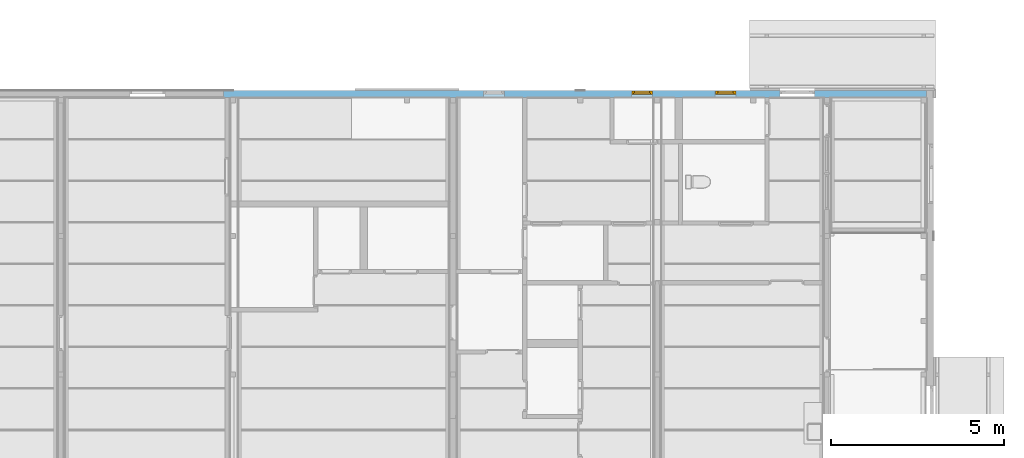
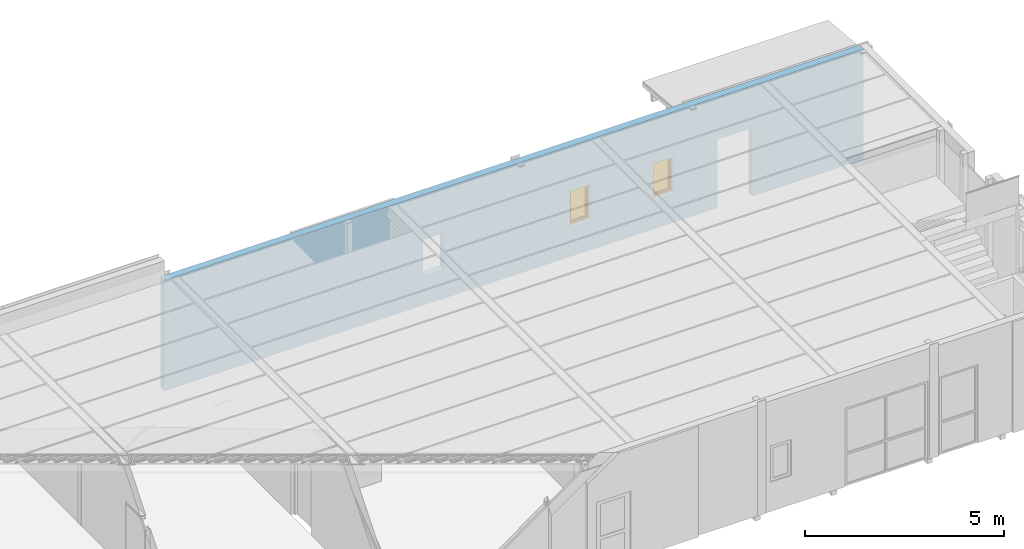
# One storey, part 33 of 45: 2 windows, 4 openings, plus 1 element that does not belong to this part.
"""IFC2X3 building model written with IfcOpenShell, lengths in millimetres."""

from ifc_helpers import new_model, entity, si_unit, converted_unit, frame, frame_2d, origin, origin_with_axes, place, context, subcontext, project, spatial, rectangle, extrude, faceted_brep, material, layer, layer_set, layer_usage, type_object, element, fill, save


model = new_model("IFC2X3")

# Units and contexts
model_context = context("Model", 3, precision=1e-05, world=origin())
plan_context = context("Plan", 3, precision=1e-05, world=origin())
body_context = subcontext(model_context, "Body", "Model", "MODEL_VIEW")
ifc_project = project(units=[si_unit("LENGTHUNIT", "METRE", prefix="MILLI"), converted_unit("PLANEANGLEUNIT", "DEGREE", entity("IfcPlaneAngleMeasure", 0.0174532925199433), si_unit("PLANEANGLEUNIT", "RADIAN"), dimensions=[0, 0, 0, 0, 0, 0, 0]), si_unit("AREAUNIT", "SQUARE_METRE"), si_unit("VOLUMEUNIT", "CUBIC_METRE")], contexts=[model_context, plan_context])

# Building, storey
building_placement = place(None, origin())
building = spatial("IfcBuilding", under=ifc_project, at=building_placement, Name="HEKF Administrasjonbygg", CompositionType="ELEMENT")
storey_placement = place(building_placement, frame((0.0, 0.0, 6500.0), z_axis=(0.0, 0.0, 1.0), x_axis=(1.0, 0.0, 0.0)))
storey = spatial("IfcBuildingStorey", under=building, at=storey_placement, Name="Plan 1", CompositionType="ELEMENT", Elevation=6500.0)

# Wall, openings, windows
ifc_material_1 = material(Name="Paroc 200")
ifc_layer = layer(ifc_material_1, 200.0)
ifc_layer_set = layer_set([ifc_layer])
ifc_layer_usage = layer_usage(ifc_layer_set, "AXIS2", "POSITIVE", 0.0)
wall_placement = place(storey_placement, frame((9700.0, 0.0, 0.0), z_axis=(0.0, 0.0, 1.0), x_axis=(1.0, 0.0, 0.0)))
wall = element("IfcWallStandardCase", 1, at=wall_placement, inside=storey, material=ifc_layer_usage, context=body_context, shape_type="SweptSolid", body=[
    extrude(rectangle(XDim=20300.0, YDim=200.0, at=frame_2d((10150.0, 100.0), x_axis=(1.0, 0.0))), origin_with_axes(), (0.0, 0.0, 1.0), 3400.0),
])
opening_1_placement = place(wall_placement, frame((14196.02524509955, 0.0, 900.0), z_axis=(0.0, 1.0, 0.0), x_axis=(0.0, 0.0, 1.0)))
opening_1 = element("IfcOpeningElement", 2, at=opening_1_placement, cuts=wall, Name="Window opening", ObjectType="Opening", context=body_context, shape_type="SweptSolid", body=[
    extrude(rectangle(XDim=1110.0, YDim=610.0, at=frame_2d((555.0, 305.0), x_axis=(1.0, 0.0))), origin_with_axes(), (0.0, 0.0, 1.0), 200.0),
])
opening_2_placement = place(wall_placement, frame((11783.83890219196, 0.0, 900.0), z_axis=(0.0, 1.0, 0.0), x_axis=(0.0, 0.0, 1.0)))
opening_2 = element("IfcOpeningElement", 3, at=opening_2_placement, cuts=wall, Name="Window opening", ObjectType="Opening", context=body_context, shape_type="SweptSolid", body=[
    extrude(rectangle(XDim=1110.0, YDim=610.0, at=frame_2d((555.0, 305.0), x_axis=(1.0, 0.0))), origin_with_axes(), (0.0, 0.0, 1.0), 200.0),
])
opening_3_placement = place(wall_placement, frame((7500.0, 0.0, 900.0), z_axis=(0.0, 1.0, 0.0), x_axis=(0.0, 0.0, 1.0)))
element("IfcOpeningElement", 4, at=opening_3_placement, cuts=wall, Name="V008", ObjectType="Opening", context=body_context, shape_type="SweptSolid", body=[
    extrude(rectangle(XDim=1110.0, YDim=610.0, at=frame_2d((555.0, 305.0), x_axis=(1.0, 0.0))), origin_with_axes(), (0.0, 0.0, 1.0), 200.0),
])
opening_4_placement = place(wall_placement, frame((16063.51368374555, 0.0, 0.0), z_axis=(0.0, 1.0, 0.0), x_axis=(0.0, 0.0, 1.0)))
element("IfcOpeningElement", 5, at=opening_4_placement, cuts=wall, Name="D004", ObjectType="Opening", context=body_context, shape_type="SweptSolid", body=[
    extrude(rectangle(XDim=2100.0, YDim=1010.0, at=frame_2d((1050.0, 505.0), x_axis=(1.0, 0.0))), origin_with_axes(), (0.0, 0.0, 1.0), 200.0),
])
ifc_material_2 = material()
window_style_1 = type_object("IfcWindowStyle", Name="V105", ConstructionType="NOTDEFINED", OperationType="USERDEFINED", ParameterTakesPrecedence=False, Sizeable=False)
window_1_placement = place(opening_1_placement, frame((0.0, 0.0, 0.0), z_axis=(1.0, 0.0, 0.0), x_axis=(0.0, 1.0, 0.0)))
window_1 = element("IfcWindow", 6, at=window_1_placement, inside=storey, type_object=window_style_1, material=ifc_material_2, Name="V105", OverallHeight=1110.0, OverallWidth=610.0, context=body_context, shape_type="Brep", body=[
    faceted_brep([(10.00000000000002, 186.0000000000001, 1100.0), (10.00000000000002, 186.0000000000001, 9.999999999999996), (60.00000000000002, 186.0, 9.999999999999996), (60.00000000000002, 186.0000000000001, 1100.0), (10.0, 94.00000000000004, 10.0), (10.0, 94.00000000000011, 1100.0), (60.0, 94.0000000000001, 1100.0), (60.0, 94.00000000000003, 10.0), (10.00000000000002, 186.0000000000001, 9.999999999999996), (10.00000000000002, 186.0000000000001, 1100.0), (10.0, 94.00000000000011, 1100.0), (10.0, 94.00000000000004, 10.0), (60.00000000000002, 186.0, 9.999999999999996), (10.00000000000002, 186.0000000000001, 9.999999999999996), (10.0, 94.00000000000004, 10.0), (60.0, 94.00000000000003, 10.0), (60.00000000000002, 186.0000000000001, 1100.0), (60.00000000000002, 186.0, 9.999999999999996), (60.0, 94.00000000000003, 10.0), (60.0, 94.0000000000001, 1100.0), (10.00000000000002, 186.0000000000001, 1100.0), (60.00000000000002, 186.0000000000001, 1100.0), (60.0, 94.0000000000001, 1100.0), (10.0, 94.00000000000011, 1100.0)], [[[0, 1, 2, 3]], [[4, 5, 6, 7]], [[8, 9, 10, 11]], [[12, 13, 14, 15]], [[16, 17, 18, 19]], [[20, 21, 22, 23]]], orient=[[False], [False], [False], [False], [False], [False]]),
    faceted_brep([(549.9999999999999, 186.0, 1100.0), (549.9999999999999, 185.9999999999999, 9.999999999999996), (599.9999999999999, 185.9999999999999, 9.999999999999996), (599.9999999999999, 186.0, 1100.0), (549.9999999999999, 93.99999999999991, 10.0), (549.9999999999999, 93.99999999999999, 1100.0), (599.9999999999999, 93.99999999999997, 1100.0), (599.9999999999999, 93.9999999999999, 10.0), (549.9999999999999, 185.9999999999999, 9.999999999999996), (549.9999999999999, 186.0, 1100.0), (549.9999999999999, 93.99999999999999, 1100.0), (549.9999999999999, 93.99999999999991, 10.0), (599.9999999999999, 185.9999999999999, 9.999999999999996), (549.9999999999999, 185.9999999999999, 9.999999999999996), (549.9999999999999, 93.99999999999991, 10.0), (599.9999999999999, 93.9999999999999, 10.0), (599.9999999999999, 186.0, 1100.0), (599.9999999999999, 185.9999999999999, 9.999999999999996), (599.9999999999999, 93.9999999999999, 10.0), (599.9999999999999, 93.99999999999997, 1100.0), (549.9999999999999, 186.0, 1100.0), (599.9999999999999, 186.0, 1100.0), (599.9999999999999, 93.99999999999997, 1100.0), (549.9999999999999, 93.99999999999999, 1100.0)], [[[0, 1, 2, 3]], [[4, 5, 6, 7]], [[8, 9, 10, 11]], [[12, 13, 14, 15]], [[16, 17, 18, 19]], [[20, 21, 22, 23]]], orient=[[False], [False], [False], [False], [False], [False]]),
    faceted_brep([(60.00000000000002, 186.0, 60.0), (60.00000000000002, 186.0, 9.999999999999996), (550.0, 185.9999999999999, 9.999999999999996), (550.0, 185.9999999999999, 60.0), (60.0, 94.00000000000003, 10.0), (60.0, 94.00000000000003, 60.0), (550.0, 93.99999999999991, 60.0), (550.0, 93.99999999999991, 10.0), (60.00000000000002, 186.0, 9.999999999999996), (60.00000000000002, 186.0, 60.0), (60.0, 94.00000000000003, 60.0), (60.0, 94.00000000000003, 10.0), (550.0, 185.9999999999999, 9.999999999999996), (60.00000000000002, 186.0, 9.999999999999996), (60.0, 94.00000000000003, 10.0), (550.0, 93.99999999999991, 10.0), (550.0, 185.9999999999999, 60.0), (550.0, 185.9999999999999, 9.999999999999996), (550.0, 93.99999999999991, 10.0), (550.0, 93.99999999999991, 60.0), (60.00000000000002, 186.0, 60.0), (550.0, 185.9999999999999, 60.0), (550.0, 93.99999999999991, 60.0), (60.0, 94.00000000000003, 60.0)], [[[0, 1, 2, 3]], [[4, 5, 6, 7]], [[8, 9, 10, 11]], [[12, 13, 14, 15]], [[16, 17, 18, 19]], [[20, 21, 22, 23]]], orient=[[False], [False], [False], [False], [False], [False]]),
    faceted_brep([(60.00000000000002, 186.0000000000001, 1100.0), (60.00000000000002, 186.0000000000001, 1050.0), (550.0, 186.0, 1050.0), (550.0, 186.0, 1100.0), (60.0, 94.00000000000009, 1050.0), (60.0, 94.00000000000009, 1100.0), (550.0, 93.99999999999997, 1100.0), (550.0, 93.99999999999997, 1050.0), (60.00000000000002, 186.0000000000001, 1050.0), (60.00000000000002, 186.0000000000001, 1100.0), (60.0, 94.00000000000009, 1100.0), (60.0, 94.00000000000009, 1050.0), (550.0, 186.0, 1050.0), (60.00000000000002, 186.0000000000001, 1050.0), (60.0, 94.00000000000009, 1050.0), (550.0, 93.99999999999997, 1050.0), (550.0, 186.0, 1100.0), (550.0, 186.0, 1050.0), (550.0, 93.99999999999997, 1050.0), (550.0, 93.99999999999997, 1100.0), (60.00000000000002, 186.0000000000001, 1100.0), (550.0, 186.0, 1100.0), (550.0, 93.99999999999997, 1100.0), (60.0, 94.00000000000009, 1100.0)], [[[0, 1, 2, 3]], [[4, 5, 6, 7]], [[8, 9, 10, 11]], [[12, 13, 14, 15]], [[16, 17, 18, 19]], [[20, 21, 22, 23]]], orient=[[False], [False], [False], [False], [False], [False]]),
    faceted_brep([(40.00000000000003, 186.0000000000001, 1070.0), (40.00000000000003, 186.0000000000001, 40.00000000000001), (90.00000000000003, 186.0, 40.00000000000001), (90.00000000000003, 186.0000000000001, 1070.0), (40.00000000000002, 136.0000000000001, 40.00000000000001), (40.00000000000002, 136.0000000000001, 1070.0), (90.00000000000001, 136.0000000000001, 1070.0), (90.00000000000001, 136.0, 40.00000000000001), (40.00000000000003, 186.0000000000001, 40.00000000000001), (40.00000000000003, 186.0000000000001, 1070.0), (40.00000000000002, 136.0000000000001, 1070.0), (40.00000000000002, 136.0000000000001, 40.00000000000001), (90.00000000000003, 186.0, 40.00000000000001), (40.00000000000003, 186.0000000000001, 40.00000000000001), (40.00000000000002, 136.0000000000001, 40.00000000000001), (90.00000000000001, 136.0, 40.00000000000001), (90.00000000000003, 186.0000000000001, 1070.0), (90.00000000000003, 186.0, 40.00000000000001), (90.00000000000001, 136.0, 40.00000000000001), (90.00000000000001, 136.0000000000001, 1070.0), (40.00000000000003, 186.0000000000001, 1070.0), (90.00000000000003, 186.0000000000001, 1070.0), (90.00000000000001, 136.0000000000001, 1070.0), (40.00000000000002, 136.0000000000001, 1070.0)], [[[0, 1, 2, 3]], [[4, 5, 6, 7]], [[8, 9, 10, 11]], [[12, 13, 14, 15]], [[16, 17, 18, 19]], [[20, 21, 22, 23]]], orient=[[False], [False], [False], [False], [False], [False]]),
    faceted_brep([(520.0, 186.0, 1070.0), (520.0, 185.9999999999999, 40.00000000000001), (570.0, 185.9999999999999, 40.00000000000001), (570.0, 186.0, 1070.0), (520.0, 135.9999999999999, 40.00000000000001), (520.0, 136.0, 1070.0), (570.0, 136.0, 1070.0), (570.0, 135.9999999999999, 40.00000000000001), (520.0, 185.9999999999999, 40.00000000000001), (520.0, 186.0, 1070.0), (520.0, 136.0, 1070.0), (520.0, 135.9999999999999, 40.00000000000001), (570.0, 185.9999999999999, 40.00000000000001), (520.0, 185.9999999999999, 40.00000000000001), (520.0, 135.9999999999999, 40.00000000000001), (570.0, 135.9999999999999, 40.00000000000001), (570.0, 186.0, 1070.0), (570.0, 185.9999999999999, 40.00000000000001), (570.0, 135.9999999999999, 40.00000000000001), (570.0, 136.0, 1070.0), (520.0, 186.0, 1070.0), (570.0, 186.0, 1070.0), (570.0, 136.0, 1070.0), (520.0, 136.0, 1070.0)], [[[0, 1, 2, 3]], [[4, 5, 6, 7]], [[8, 9, 10, 11]], [[12, 13, 14, 15]], [[16, 17, 18, 19]], [[20, 21, 22, 23]]], orient=[[False], [False], [False], [False], [False], [False]]),
    faceted_brep([(90.00000000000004, 186.0, 90.0), (90.00000000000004, 186.0, 40.00000000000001), (520.0, 185.9999999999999, 40.00000000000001), (520.0, 185.9999999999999, 90.0), (90.00000000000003, 136.0, 40.00000000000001), (90.00000000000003, 136.0, 90.0), (520.0, 135.9999999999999, 90.0), (520.0, 135.9999999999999, 40.00000000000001), (90.00000000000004, 186.0, 40.00000000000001), (90.00000000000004, 186.0, 90.0), (90.00000000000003, 136.0, 90.0), (90.00000000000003, 136.0, 40.00000000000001), (520.0, 185.9999999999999, 40.00000000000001), (90.00000000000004, 186.0, 40.00000000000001), (90.00000000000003, 136.0, 40.00000000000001), (520.0, 135.9999999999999, 40.00000000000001), (520.0, 185.9999999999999, 90.0), (520.0, 185.9999999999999, 40.00000000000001), (520.0, 135.9999999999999, 40.00000000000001), (520.0, 135.9999999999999, 90.0), (90.00000000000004, 186.0, 90.0), (520.0, 185.9999999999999, 90.0), (520.0, 135.9999999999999, 90.0), (90.00000000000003, 136.0, 90.0)], [[[0, 1, 2, 3]], [[4, 5, 6, 7]], [[8, 9, 10, 11]], [[12, 13, 14, 15]], [[16, 17, 18, 19]], [[20, 21, 22, 23]]], orient=[[False], [False], [False], [False], [False], [False]]),
    faceted_brep([(90.00000000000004, 186.0000000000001, 1070.0), (90.00000000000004, 186.0000000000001, 1020.0), (520.0, 186.0, 1020.0), (520.0, 186.0, 1070.0), (90.00000000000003, 136.0000000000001, 1020.0), (90.00000000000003, 136.0000000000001, 1070.0), (520.0, 136.0, 1070.0), (520.0, 136.0, 1020.0), (90.00000000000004, 186.0000000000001, 1020.0), (90.00000000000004, 186.0000000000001, 1070.0), (90.00000000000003, 136.0000000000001, 1070.0), (90.00000000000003, 136.0000000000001, 1020.0), (520.0, 186.0, 1020.0), (90.00000000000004, 186.0000000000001, 1020.0), (90.00000000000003, 136.0000000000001, 1020.0), (520.0, 136.0, 1020.0), (520.0, 186.0, 1070.0), (520.0, 186.0, 1020.0), (520.0, 136.0, 1020.0), (520.0, 136.0, 1070.0), (90.00000000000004, 186.0000000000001, 1070.0), (520.0, 186.0, 1070.0), (520.0, 136.0, 1070.0), (90.00000000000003, 136.0000000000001, 1070.0)], [[[0, 1, 2, 3]], [[4, 5, 6, 7]], [[8, 9, 10, 11]], [[12, 13, 14, 15]], [[16, 17, 18, 19]], [[20, 21, 22, 23]]], orient=[[False], [False], [False], [False], [False], [False]]),
    faceted_brep([(90.00000000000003, 161.0, 90.00000000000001), (520.0, 160.9999999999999, 90.00000000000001), (520.0, 161.0, 1020.0), (90.00000000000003, 161.0000000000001, 1020.0), (90.00000000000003, 160.0, 90.00000000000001), (90.00000000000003, 160.0000000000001, 1020.0), (520.0, 160.0, 1020.0), (520.0, 159.9999999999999, 90.00000000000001), (90.00000000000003, 161.0, 90.00000000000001), (90.00000000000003, 160.0, 90.00000000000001), (520.0, 159.9999999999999, 90.00000000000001), (520.0, 160.9999999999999, 90.00000000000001), (520.0, 160.9999999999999, 90.00000000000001), (520.0, 159.9999999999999, 90.00000000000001), (520.0, 160.0, 1020.0), (520.0, 161.0, 1020.0), (520.0, 161.0, 1020.0), (520.0, 160.0, 1020.0), (90.00000000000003, 160.0000000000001, 1020.0), (90.00000000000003, 161.0000000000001, 1020.0), (90.00000000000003, 161.0000000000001, 1020.0), (90.00000000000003, 160.0000000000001, 1020.0), (90.00000000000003, 160.0, 90.00000000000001), (90.00000000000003, 161.0, 90.00000000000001)], [[[0, 1, 2, 3]], [[4, 5, 6, 7]], [[8, 9, 10, 11]], [[12, 13, 14, 15]], [[16, 17, 18, 19]], [[20, 21, 22, 23]]], orient=[[False], [False], [False], [False], [False], [False]]),
])
fill(opening_1, window_1)
ifc_material_3 = material()
window_style_2 = type_object("IfcWindowStyle", Name="V106", ConstructionType="NOTDEFINED", OperationType="USERDEFINED", ParameterTakesPrecedence=False, Sizeable=False)
window_2_placement = place(opening_2_placement, frame((0.0, 0.0, 0.0), z_axis=(1.0, 0.0, 0.0), x_axis=(0.0, 1.0, 0.0)))
window_2 = element("IfcWindow", 7, at=window_2_placement, inside=storey, type_object=window_style_2, material=ifc_material_3, Name="V106", OverallHeight=1110.0, OverallWidth=610.0, context=body_context, shape_type="Brep", body=[
    faceted_brep([(10.00000000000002, 186.0000000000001, 1100.0), (10.00000000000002, 186.0, 9.999999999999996), (60.00000000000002, 186.0, 9.999999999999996), (60.00000000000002, 186.0000000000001, 1100.0), (10.0, 94.00000000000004, 10.0), (10.0, 94.00000000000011, 1100.0), (60.0, 94.0000000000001, 1100.0), (60.0, 94.00000000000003, 10.0), (10.00000000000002, 186.0, 9.999999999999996), (10.00000000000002, 186.0000000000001, 1100.0), (10.0, 94.00000000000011, 1100.0), (10.0, 94.00000000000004, 10.0), (60.00000000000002, 186.0, 9.999999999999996), (10.00000000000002, 186.0, 9.999999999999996), (10.0, 94.00000000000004, 10.0), (60.0, 94.00000000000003, 10.0), (60.00000000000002, 186.0000000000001, 1100.0), (60.00000000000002, 186.0, 9.999999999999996), (60.0, 94.00000000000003, 10.0), (60.0, 94.0000000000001, 1100.0), (10.00000000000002, 186.0000000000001, 1100.0), (60.00000000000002, 186.0000000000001, 1100.0), (60.0, 94.0000000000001, 1100.0), (10.0, 94.00000000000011, 1100.0)], [[[0, 1, 2, 3]], [[4, 5, 6, 7]], [[8, 9, 10, 11]], [[12, 13, 14, 15]], [[16, 17, 18, 19]], [[20, 21, 22, 23]]], orient=[[False], [False], [False], [False], [False], [False]]),
    faceted_brep([(549.9999999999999, 185.9999999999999, 1100.0), (549.9999999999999, 185.9999999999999, 9.999999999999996), (599.9999999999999, 185.9999999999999, 9.999999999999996), (599.9999999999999, 185.9999999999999, 1100.0), (549.9999999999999, 93.9999999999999, 10.0), (549.9999999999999, 93.99999999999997, 1100.0), (599.9999999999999, 93.99999999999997, 1100.0), (599.9999999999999, 93.9999999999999, 10.0), (549.9999999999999, 185.9999999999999, 9.999999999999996), (549.9999999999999, 185.9999999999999, 1100.0), (549.9999999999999, 93.99999999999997, 1100.0), (549.9999999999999, 93.9999999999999, 10.0), (599.9999999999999, 185.9999999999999, 9.999999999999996), (549.9999999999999, 185.9999999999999, 9.999999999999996), (549.9999999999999, 93.9999999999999, 10.0), (599.9999999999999, 93.9999999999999, 10.0), (599.9999999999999, 185.9999999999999, 1100.0), (599.9999999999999, 185.9999999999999, 9.999999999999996), (599.9999999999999, 93.9999999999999, 10.0), (599.9999999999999, 93.99999999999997, 1100.0), (549.9999999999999, 185.9999999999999, 1100.0), (599.9999999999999, 185.9999999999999, 1100.0), (599.9999999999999, 93.99999999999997, 1100.0), (549.9999999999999, 93.99999999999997, 1100.0)], [[[0, 1, 2, 3]], [[4, 5, 6, 7]], [[8, 9, 10, 11]], [[12, 13, 14, 15]], [[16, 17, 18, 19]], [[20, 21, 22, 23]]], orient=[[False], [False], [False], [False], [False], [False]]),
    faceted_brep([(60.00000000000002, 186.0, 60.0), (60.00000000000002, 186.0, 9.999999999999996), (550.0, 185.9999999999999, 9.999999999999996), (550.0, 185.9999999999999, 60.0), (60.0, 94.00000000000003, 10.0), (60.0, 94.00000000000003, 60.0), (550.0, 93.9999999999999, 60.0), (550.0, 93.9999999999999, 10.0), (60.00000000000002, 186.0, 9.999999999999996), (60.00000000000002, 186.0, 60.0), (60.0, 94.00000000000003, 60.0), (60.0, 94.00000000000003, 10.0), (550.0, 185.9999999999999, 9.999999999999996), (60.00000000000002, 186.0, 9.999999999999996), (60.0, 94.00000000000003, 10.0), (550.0, 93.9999999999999, 10.0), (550.0, 185.9999999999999, 60.0), (550.0, 185.9999999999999, 9.999999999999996), (550.0, 93.9999999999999, 10.0), (550.0, 93.9999999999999, 60.0), (60.00000000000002, 186.0, 60.0), (550.0, 185.9999999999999, 60.0), (550.0, 93.9999999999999, 60.0), (60.0, 94.00000000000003, 60.0)], [[[0, 1, 2, 3]], [[4, 5, 6, 7]], [[8, 9, 10, 11]], [[12, 13, 14, 15]], [[16, 17, 18, 19]], [[20, 21, 22, 23]]], orient=[[False], [False], [False], [False], [False], [False]]),
    faceted_brep([(60.00000000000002, 186.0000000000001, 1100.0), (60.00000000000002, 186.0000000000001, 1050.0), (550.0, 185.9999999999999, 1050.0), (550.0, 185.9999999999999, 1100.0), (60.0, 94.00000000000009, 1050.0), (60.0, 94.00000000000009, 1100.0), (550.0, 93.99999999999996, 1100.0), (550.0, 93.99999999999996, 1050.0), (60.00000000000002, 186.0000000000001, 1050.0), (60.00000000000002, 186.0000000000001, 1100.0), (60.0, 94.00000000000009, 1100.0), (60.0, 94.00000000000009, 1050.0), (550.0, 185.9999999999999, 1050.0), (60.00000000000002, 186.0000000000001, 1050.0), (60.0, 94.00000000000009, 1050.0), (550.0, 93.99999999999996, 1050.0), (550.0, 185.9999999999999, 1100.0), (550.0, 185.9999999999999, 1050.0), (550.0, 93.99999999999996, 1050.0), (550.0, 93.99999999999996, 1100.0), (60.00000000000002, 186.0000000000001, 1100.0), (550.0, 185.9999999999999, 1100.0), (550.0, 93.99999999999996, 1100.0), (60.0, 94.00000000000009, 1100.0)], [[[0, 1, 2, 3]], [[4, 5, 6, 7]], [[8, 9, 10, 11]], [[12, 13, 14, 15]], [[16, 17, 18, 19]], [[20, 21, 22, 23]]], orient=[[False], [False], [False], [False], [False], [False]]),
    faceted_brep([(40.00000000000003, 186.0000000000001, 1070.0), (40.00000000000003, 186.0, 40.00000000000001), (90.00000000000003, 186.0, 40.00000000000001), (90.00000000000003, 186.0000000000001, 1070.0), (40.00000000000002, 136.0, 40.00000000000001), (40.00000000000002, 136.0000000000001, 1070.0), (90.00000000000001, 136.0000000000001, 1070.0), (90.00000000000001, 136.0, 40.00000000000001), (40.00000000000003, 186.0, 40.00000000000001), (40.00000000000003, 186.0000000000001, 1070.0), (40.00000000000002, 136.0000000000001, 1070.0), (40.00000000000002, 136.0, 40.00000000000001), (90.00000000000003, 186.0, 40.00000000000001), (40.00000000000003, 186.0, 40.00000000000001), (40.00000000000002, 136.0, 40.00000000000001), (90.00000000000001, 136.0, 40.00000000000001), (90.00000000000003, 186.0000000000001, 1070.0), (90.00000000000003, 186.0, 40.00000000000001), (90.00000000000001, 136.0, 40.00000000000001), (90.00000000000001, 136.0000000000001, 1070.0), (40.00000000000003, 186.0000000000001, 1070.0), (90.00000000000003, 186.0000000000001, 1070.0), (90.00000000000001, 136.0000000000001, 1070.0), (40.00000000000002, 136.0000000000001, 1070.0)], [[[0, 1, 2, 3]], [[4, 5, 6, 7]], [[8, 9, 10, 11]], [[12, 13, 14, 15]], [[16, 17, 18, 19]], [[20, 21, 22, 23]]], orient=[[False], [False], [False], [False], [False], [False]]),
    faceted_brep([(520.0, 185.9999999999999, 1070.0), (520.0, 185.9999999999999, 40.00000000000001), (570.0, 185.9999999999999, 40.00000000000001), (570.0, 185.9999999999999, 1070.0), (520.0, 135.9999999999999, 40.00000000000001), (520.0, 136.0, 1070.0), (570.0, 135.9999999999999, 1070.0), (570.0, 135.9999999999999, 40.00000000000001), (520.0, 185.9999999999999, 40.00000000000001), (520.0, 185.9999999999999, 1070.0), (520.0, 136.0, 1070.0), (520.0, 135.9999999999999, 40.00000000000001), (570.0, 185.9999999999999, 40.00000000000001), (520.0, 185.9999999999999, 40.00000000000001), (520.0, 135.9999999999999, 40.00000000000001), (570.0, 135.9999999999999, 40.00000000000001), (570.0, 185.9999999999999, 1070.0), (570.0, 185.9999999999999, 40.00000000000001), (570.0, 135.9999999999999, 40.00000000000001), (570.0, 135.9999999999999, 1070.0), (520.0, 185.9999999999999, 1070.0), (570.0, 185.9999999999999, 1070.0), (570.0, 135.9999999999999, 1070.0), (520.0, 136.0, 1070.0)], [[[0, 1, 2, 3]], [[4, 5, 6, 7]], [[8, 9, 10, 11]], [[12, 13, 14, 15]], [[16, 17, 18, 19]], [[20, 21, 22, 23]]], orient=[[False], [False], [False], [False], [False], [False]]),
    faceted_brep([(90.00000000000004, 186.0, 90.0), (90.00000000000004, 186.0, 40.00000000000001), (520.0, 185.9999999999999, 40.00000000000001), (520.0, 185.9999999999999, 90.0), (90.00000000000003, 136.0, 40.00000000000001), (90.00000000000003, 136.0, 90.0), (520.0, 135.9999999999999, 90.0), (520.0, 135.9999999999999, 40.00000000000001), (90.00000000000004, 186.0, 40.00000000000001), (90.00000000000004, 186.0, 90.0), (90.00000000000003, 136.0, 90.0), (90.00000000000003, 136.0, 40.00000000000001), (520.0, 185.9999999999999, 40.00000000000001), (90.00000000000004, 186.0, 40.00000000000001), (90.00000000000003, 136.0, 40.00000000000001), (520.0, 135.9999999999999, 40.00000000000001), (520.0, 185.9999999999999, 90.0), (520.0, 185.9999999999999, 40.00000000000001), (520.0, 135.9999999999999, 40.00000000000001), (520.0, 135.9999999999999, 90.0), (90.00000000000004, 186.0, 90.0), (520.0, 185.9999999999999, 90.0), (520.0, 135.9999999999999, 90.0), (90.00000000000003, 136.0, 90.0)], [[[0, 1, 2, 3]], [[4, 5, 6, 7]], [[8, 9, 10, 11]], [[12, 13, 14, 15]], [[16, 17, 18, 19]], [[20, 21, 22, 23]]], orient=[[False], [False], [False], [False], [False], [False]]),
    faceted_brep([(90.00000000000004, 186.0000000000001, 1070.0), (90.00000000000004, 186.0000000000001, 1020.0), (520.0, 185.9999999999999, 1020.0), (520.0, 185.9999999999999, 1070.0), (90.00000000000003, 136.0000000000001, 1020.0), (90.00000000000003, 136.0000000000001, 1070.0), (520.0, 136.0, 1070.0), (520.0, 136.0, 1020.0), (90.00000000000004, 186.0000000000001, 1020.0), (90.00000000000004, 186.0000000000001, 1070.0), (90.00000000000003, 136.0000000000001, 1070.0), (90.00000000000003, 136.0000000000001, 1020.0), (520.0, 185.9999999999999, 1020.0), (90.00000000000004, 186.0000000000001, 1020.0), (90.00000000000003, 136.0000000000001, 1020.0), (520.0, 136.0, 1020.0), (520.0, 185.9999999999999, 1070.0), (520.0, 185.9999999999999, 1020.0), (520.0, 136.0, 1020.0), (520.0, 136.0, 1070.0), (90.00000000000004, 186.0000000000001, 1070.0), (520.0, 185.9999999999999, 1070.0), (520.0, 136.0, 1070.0), (90.00000000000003, 136.0000000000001, 1070.0)], [[[0, 1, 2, 3]], [[4, 5, 6, 7]], [[8, 9, 10, 11]], [[12, 13, 14, 15]], [[16, 17, 18, 19]], [[20, 21, 22, 23]]], orient=[[False], [False], [False], [False], [False], [False]]),
    faceted_brep([(90.00000000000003, 161.0, 90.00000000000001), (520.0, 160.9999999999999, 90.00000000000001), (520.0, 160.9999999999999, 1020.0), (90.00000000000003, 161.0000000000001, 1020.0), (90.00000000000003, 160.0, 90.00000000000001), (90.00000000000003, 160.0000000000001, 1020.0), (520.0, 159.9999999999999, 1020.0), (520.0, 159.9999999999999, 90.00000000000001), (90.00000000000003, 161.0, 90.00000000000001), (90.00000000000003, 160.0, 90.00000000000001), (520.0, 159.9999999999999, 90.00000000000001), (520.0, 160.9999999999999, 90.00000000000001), (520.0, 160.9999999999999, 90.00000000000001), (520.0, 159.9999999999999, 90.00000000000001), (520.0, 159.9999999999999, 1020.0), (520.0, 160.9999999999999, 1020.0), (520.0, 160.9999999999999, 1020.0), (520.0, 159.9999999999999, 1020.0), (90.00000000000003, 160.0000000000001, 1020.0), (90.00000000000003, 161.0000000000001, 1020.0), (90.00000000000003, 161.0000000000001, 1020.0), (90.00000000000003, 160.0000000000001, 1020.0), (90.00000000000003, 160.0, 90.00000000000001), (90.00000000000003, 161.0, 90.00000000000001)], [[[0, 1, 2, 3]], [[4, 5, 6, 7]], [[8, 9, 10, 11]], [[12, 13, 14, 15]], [[16, 17, 18, 19]], [[20, 21, 22, 23]]], orient=[[False], [False], [False], [False], [False], [False]]),
])
fill(opening_2, window_2)

save(model, "model.ifc")
